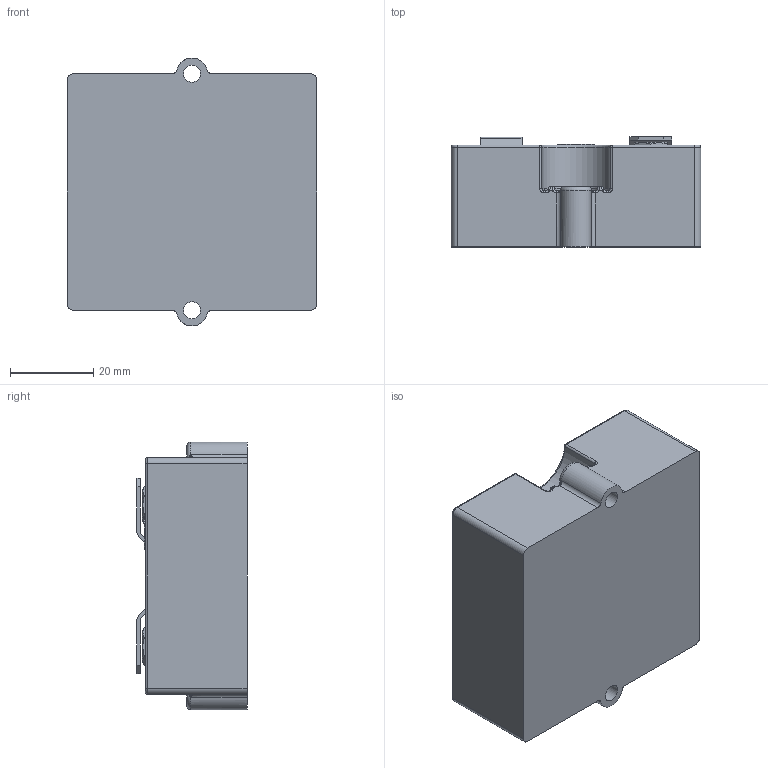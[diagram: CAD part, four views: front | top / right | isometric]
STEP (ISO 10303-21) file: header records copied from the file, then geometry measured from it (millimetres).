
FILE_DESCRIPTION(('STEP AP203'), '1');
FILE_NAME('Ð1-150Ì-600-1', '', ('UNSPECIFIED'), ('UNSPECIFIED'), 'C3D Converter', 'C3D Toolkit', '');
FILE_SCHEMA(('CONFIG_CONTROL_DESIGN'));
Length unit declared in the file: millimetre
Assembly tree (5 placements, depth 2):
  (unnamed)
    (unnamed)
    (unnamed)  x2
    (unnamed)
    (unnamed)
Bounding box: 60 x 26.5 x 64.5 mm (x, y, z)
Volume: 67985 mm3; surface area: 23804.4 mm2
Topology: 5 solids, 7 shells, 373 faces, 953 edges, 604 vertices
Faces by surface type: plane 215, cylinder 82, bspline 32, torus 24, cone 16, sphere 4
Full cylindrical faces by diameter (mm): 1.5 x4, 4 x2, 4.1 x2, 4.134 x2, 7.5 x2
Entity records: 16109 total; most frequent: CARTESIAN_POINT 4793, ORIENTED_EDGE 1766, DIRECTION 1681, EDGE_CURVE 883, VERTEX_POINT 582, LINE 565, VECTOR 565, AXIS2_PLACEMENT_3D 558
